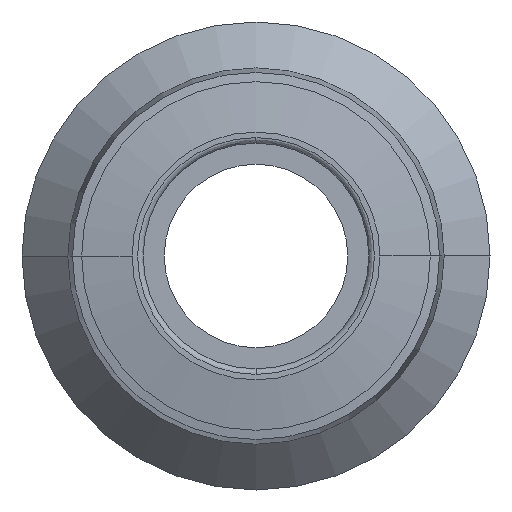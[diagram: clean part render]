
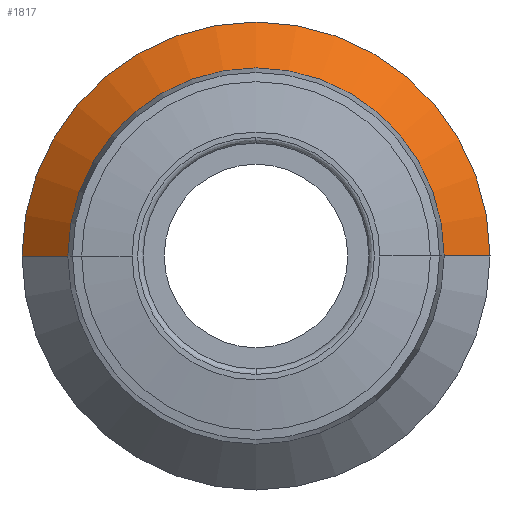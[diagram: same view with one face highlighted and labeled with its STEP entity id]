
A CAD part, front view. The second image highlights one B-rep face of the part: STEP entity #1817.
In plain terms, the highlighted conical face has half-angle 45 degrees and reference radius 11.5 mm.
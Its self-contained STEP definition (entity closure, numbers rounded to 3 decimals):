
#28 = LINE ( 'NONE', #939, #844 ) ;
#30 = CARTESIAN_POINT ( 'NONE',  ( -12.75, 30.4, 0. ) ) ;
#60 = AXIS2_PLACEMENT_3D ( 'NONE', #1376, #323, #1514 ) ;
#169 = CARTESIAN_POINT ( 'NONE',  ( 0., 29.15, 0. ) ) ;
#226 = VERTEX_POINT ( 'NONE', #1652 ) ;
#256 = VECTOR ( 'NONE', #473, 1000. ) ;
#260 = CARTESIAN_POINT ( 'NONE',  ( -10.25, 27.9, 0. ) ) ;
#266 = ORIENTED_EDGE ( 'NONE', *, *, #480, .F. ) ;
#284 = LINE ( 'NONE', #1820, #256 ) ;
#323 = DIRECTION ( 'NONE',  ( 0., 1., 0. ) ) ;
#364 = CARTESIAN_POINT ( 'NONE',  ( 12.75, 30.4, 0. ) ) ;
#473 = DIRECTION ( 'NONE',  ( -0.707, 0.707, 0. ) ) ;
#480 = EDGE_CURVE ( 'NONE', #1293, #662, #992, .T. ) ;
#494 = ORIENTED_EDGE ( 'NONE', *, *, #539, .T. ) ;
#539 = EDGE_CURVE ( 'NONE', #226, #662, #28, .T. ) ;
#548 = CONICAL_SURFACE ( 'NONE', #1554, 11.5, 0.785 ) ;
#583 = DIRECTION ( 'NONE',  ( 0., 1., 0. ) ) ;
#607 = FACE_OUTER_BOUND ( 'NONE', #1533, .T. ) ;
#662 = VERTEX_POINT ( 'NONE', #364 ) ;
#738 = CARTESIAN_POINT ( 'NONE',  ( 0., 27.9, 0. ) ) ;
#758 = DIRECTION ( 'NONE',  ( 0., 1., 0. ) ) ;
#788 = DIRECTION ( 'NONE',  ( 0.707, 0.707, 0. ) ) ;
#844 = VECTOR ( 'NONE', #788, 1000. ) ;
#939 = CARTESIAN_POINT ( 'NONE',  ( 11.5, 29.15, 0. ) ) ;
#992 = CIRCLE ( 'NONE', #60, 12.75 ) ;
#1015 = DIRECTION ( 'NONE',  ( -1., 0., 0. ) ) ;
#1226 = DIRECTION ( 'NONE',  ( -1., 0., 0. ) ) ;
#1293 = VERTEX_POINT ( 'NONE', #30 ) ;
#1340 = AXIS2_PLACEMENT_3D ( 'NONE', #738, #583, #1015 ) ;
#1376 = CARTESIAN_POINT ( 'NONE',  ( 0., 30.4, 0. ) ) ;
#1514 = DIRECTION ( 'NONE',  ( -1., 0., 0. ) ) ;
#1533 = EDGE_LOOP ( 'NONE', ( #1907, #494, #266, #1897 ) ) ;
#1554 = AXIS2_PLACEMENT_3D ( 'NONE', #169, #758, #1226 ) ;
#1652 = CARTESIAN_POINT ( 'NONE',  ( 10.25, 27.9, 0. ) ) ;
#1655 = EDGE_CURVE ( 'NONE', #1715, #226, #1737, .T. ) ;
#1715 = VERTEX_POINT ( 'NONE', #260 ) ;
#1737 = CIRCLE ( 'NONE', #1340, 10.25 ) ;
#1817 = ADVANCED_FACE ( 'NONE', ( #607 ), #548, .T. ) ;
#1820 = CARTESIAN_POINT ( 'NONE',  ( -11.5, 29.15, 0. ) ) ;
#1897 = ORIENTED_EDGE ( 'NONE', *, *, #1926, .F. ) ;
#1907 = ORIENTED_EDGE ( 'NONE', *, *, #1655, .T. ) ;
#1926 = EDGE_CURVE ( 'NONE', #1715, #1293, #284, .T. ) ;
